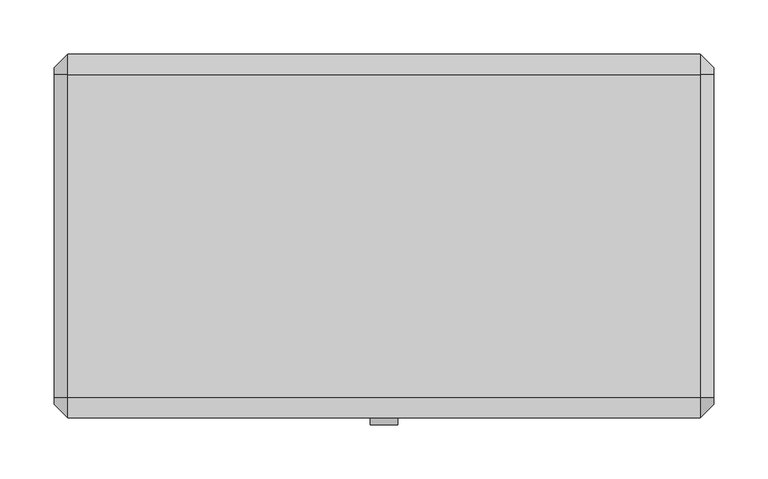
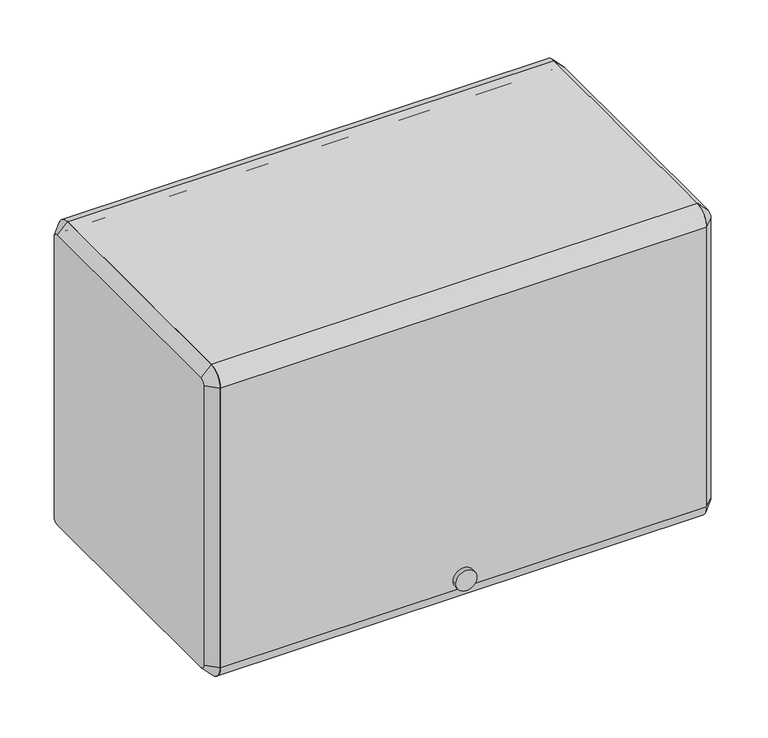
"""IFC4 building model written with IfcOpenShell, lengths in millimetres: furniture geometry."""

from ifc_helpers import new_model, si_unit, point, frame, frame_2d, origin, place, context, project, spatial, polyline, circle_curve, trimmed, segment, composite_curve, outline, extrude, source, transform, mapped, element, save
from ifc_brep_helpers import plane_surface, revolved_surface, advanced_brep


def furniture_6c0513ad(model_context):
    return source(origin(), model_context, "Body", "SolidModel", [
        extrude(outline(composite_curve([segment(polyline([(-136.525, 1993.9), (-136.525, 2006.6), (161.925, 2006.6)]), True, "CONTINUOUS"), segment(trimmed(circle_curve(frame_2d((161.925, 1987.55)), 19.05), [point((161.925, 2006.6))], [point((180.975, 1987.55))], False, "CARTESIAN"), True, "CONTINUOUS"), segment(polyline([(180.975, 1987.55), (168.275, 1987.55)]), True, "CONTINUOUS"), segment(trimmed(circle_curve(frame_2d((161.925, 1987.55)), 6.35), [point((168.275, 1987.55))], [point((161.925, 1993.9))], True, "CARTESIAN"), True, "CONTINUOUS"), segment(polyline([(161.925, 1993.9), (-136.525, 1993.9)]), True, "CONTINUOUS")], self_intersect=False)), frame((-292.1, 0.0, 0.0), z_axis=(1.0, 0.0, 0.0), x_axis=(0.0, 1.0, 0.0)), (0.0, 0.0, 1.0), 584.2),
        extrude(outline(composite_curve([segment(trimmed(circle_curve(frame_2d((-136.525, 1987.55)), 19.05), [point((-155.575, 1987.55))], [point((-136.525, 2006.6))], False, "CARTESIAN"), True, "CONTINUOUS"), segment(polyline([(-136.525, 2006.6), (-136.525, 1993.9)]), True, "CONTINUOUS"), segment(trimmed(circle_curve(frame_2d((-136.525, 1987.55)), 6.35), [point((-136.525, 1993.9))], [point((-142.875, 1987.55))], True, "CARTESIAN"), True, "CONTINUOUS"), segment(polyline([(-142.875, 1987.55), (-142.875, 1631.95)]), True, "CONTINUOUS"), segment(trimmed(circle_curve(frame_2d((-136.525, 1631.95)), 6.35), [point((-142.875, 1631.95))], [point((-136.525, 1625.6))], True, "CARTESIAN"), True, "CONTINUOUS"), segment(polyline([(-136.525, 1625.6), (-136.525, 1612.9)]), True, "CONTINUOUS"), segment(trimmed(circle_curve(frame_2d((-136.525, 1631.95)), 19.05), [point((-136.525, 1612.9))], [point((-155.575, 1631.95))], False, "CARTESIAN"), True, "CONTINUOUS"), segment(polyline([(-155.575, 1631.95), (-155.575, 1987.55)]), True, "CONTINUOUS")], self_intersect=False)), frame((-292.1, 0.0, 0.0), z_axis=(1.0, 0.0, 0.0), x_axis=(0.0, 1.0, 0.0)), (0.0, 0.0, 1.0), 584.2),
        extrude(outline(composite_curve([segment(trimmed(circle_curve(frame_2d((1644.6118906, 0.0201199)), 12.7253951), [point((1644.6118906, 12.745515))], [point((1644.6118906, -12.7052752))], False, "CARTESIAN"), True, "CONTINUOUS"), segment(trimmed(circle_curve(frame_2d((1644.6118906, 0.0201199)), 12.7253951), [point((1644.6118906, -12.7052752))], [point((1644.6118906, 12.745515))], False, "CARTESIAN"), True, "CONTINUOUS")], self_intersect=False)), frame((0.0, -161.925, 0.0), z_axis=(0.0, 1.0, 0.0), x_axis=(0.0, 0.0, 1.0)), (0.0, 0.0, 1.0), 6.35),
        extrude(outline(polyline([(-136.525, 1651.0), (161.925, 1651.0), (161.925, 1689.1), (174.625, 1689.1), (174.625, 1685.925), (165.1, 1685.925), (165.1, 1647.825), (-133.35, 1647.825), (-133.35, 1628.775), (-136.525, 1628.775), (-136.525, 1651.0)])), frame((-292.1, 0.0, 0.0), z_axis=(1.0, 0.0, 0.0), x_axis=(0.0, 1.0, 0.0)), (0.0, 0.0, 1.0), 584.2),
        advanced_brep(
        [(304.8, 161.925, 1993.9), (304.8, -136.525, 1993.9), (304.8, -142.875, 1987.55), (304.8, -142.875, 1631.95), (304.8, -136.525, 1625.6), (304.8, 161.925, 1625.6), (304.8, 168.275, 1631.95), (304.8, 168.275, 1987.55), (292.1, 161.925, 2006.6), (292.1, 180.975, 1987.55), (292.1, 180.975, 1631.95), (292.1, 161.925, 1612.9), (292.1, -136.525, 1612.9), (292.1, -155.575, 1631.95), (292.1, -155.575, 1987.55), (292.1, -136.525, 2006.6)],
        [
            (0, 1),
            (1, 2, circle_curve(frame((304.8, -136.525, 1987.55), z_axis=(1.0, 6.490807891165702e-12, -6.608047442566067e-12), x_axis=(6.60804813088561e-12, 0.0, 1.0)), 6.35)),
            (2, 3),
            (3, 4, circle_curve(frame((304.8, -136.525, 1631.95), z_axis=(1.0, 3.3759661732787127e-12, 3.367972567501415e-12), x_axis=(3.3760128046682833e-12, -1.0, 0.0)), 6.35)),
            (4, 5),
            (5, 6, circle_curve(frame((304.8, 161.925, 1631.95), z_axis=(1.0, 3.378630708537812e-12, -3.4106051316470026e-12), x_axis=(-3.4105548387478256e-12, 0.0, -1.0)), 6.35)),
            (6, 7),
            (7, 0, circle_curve(frame((304.8, 161.925, 1987.55), z_axis=(1.0, 6.4828142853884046e-12, 6.373568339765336e-12), x_axis=(-6.482754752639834e-12, 1.0, 0.0)), 6.35)),
            (8, 9, circle_curve(frame((292.1, 161.925, 1987.55), z_axis=(-1.0, -6.4828142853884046e-12, -6.373568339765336e-12), x_axis=(-6.482754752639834e-12, 1.0, 0.0)), 19.05)),
            (9, 10),
            (10, 11, circle_curve(frame((292.1, 161.925, 1631.95), z_axis=(-1.0, -3.378630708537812e-12, 3.4106051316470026e-12), x_axis=(-3.4105548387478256e-12, 0.0, -1.0)), 19.05)),
            (11, 12),
            (12, 13, circle_curve(frame((292.1, -136.525, 1631.95), z_axis=(-1.0, -3.3759661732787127e-12, -3.367972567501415e-12), x_axis=(3.3760128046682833e-12, -1.0, 0.0)), 19.05)),
            (13, 14),
            (14, 15, circle_curve(frame((292.1, -136.525, 1987.55), z_axis=(-1.0, -6.490807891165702e-12, 6.608047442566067e-12), x_axis=(6.60804813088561e-12, 0.0, 1.0)), 19.05)),
            (15, 8),
            (15, 1),
            (0, 8),
            (14, 2),
            (13, 3),
            (12, 4),
            (11, 5),
            (10, 6),
            (9, 7),
        ],
        [
            plane_surface(frame((304.8, 12.7, 1809.75), z_axis=(1.0, 0.0, 0.0), x_axis=(0.0, -1.0, 0.0))),
            plane_surface(frame((292.1, 12.7, 1809.75), z_axis=(-1.0, 0.0, 0.0), x_axis=(0.0, -1.0, 0.0))),
            plane_surface(frame((292.1, 12.7, 2006.6), z_axis=(0.7071067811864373, 0.0, 0.7071067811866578), x_axis=(0.0, -1.0, 0.0))),
            revolved_surface(polyline([(304.80000000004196, -136.525, 1993.899999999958), (292.1, -136.525, 2006.6)]), (311.15, -136.525, 1987.55), (-1.0, -6.490807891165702e-12, 6.608047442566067e-12)),
            plane_surface(frame((292.1, -155.575, 1809.75), z_axis=(0.7071067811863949, -0.7071067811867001, 0.0), x_axis=(0.0, 0.0, -1.0))),
            revolved_surface(polyline([(304.80000000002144, -142.87499999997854, 1631.95), (292.1, -155.575, 1631.95)]), (311.15, -136.525, 1631.95), (-1.0, -3.3759661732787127e-12, -3.367972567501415e-12)),
            plane_surface(frame((292.1, 12.7, 1612.9), z_axis=(0.7071067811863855, 0.0, -0.7071067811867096), x_axis=(0.0, 1.0, 0.0))),
            revolved_surface(polyline([(304.8, 161.925, 1625.6000000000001), (292.09999999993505, 161.925, 1612.899999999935)]), (311.15, 161.925, 1631.95), (-1.0, -3.378630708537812e-12, 3.4106051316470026e-12)),
            plane_surface(frame((292.1, 180.975, 1809.75), z_axis=(0.707106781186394, 0.7071067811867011, 0.0), x_axis=(0.0, 0.0, 1.0))),
            revolved_surface(polyline([(304.8, 168.27499999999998, 1987.55), (292.0999999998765, 180.9750000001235, 1987.55)]), (311.15, 161.925, 1987.55), (-1.0, -6.4828142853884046e-12, -6.373568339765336e-12)),
        ],
        [
            (0, [[1, 2, 3, 4, 5, 6, 7, 8]]),
            (1, [[9, 10, 11, 12, 13, 14, 15, 16]]),
            (2, [[-16, 17, -1, 18]]),
            (3, [[-15, 19, -2, -17]]),
            (4, [[-14, 20, -3, -19]]),
            (5, [[-13, 21, -4, -20]]),
            (6, [[-12, 22, -5, -21]]),
            (7, [[-11, 23, -6, -22]]),
            (8, [[-10, 24, -7, -23]]),
            (9, [[-9, -18, -8, -24]]),
        ],
    ),
        advanced_brep(
        [(-304.8, -136.525, 1993.9), (-304.8, 161.925, 1993.9), (-304.8, 168.275, 1987.55), (-304.8, 168.275, 1631.95), (-304.8, 161.925, 1625.6), (-304.8, -136.525, 1625.6), (-304.8, -142.875, 1631.95), (-304.8, -142.875, 1987.55), (-292.1, -136.525, 2006.6), (-292.1, -155.575, 1987.55), (-292.1, -155.575, 1631.95), (-292.1, -136.525, 1612.9), (-292.1, 161.925, 1612.9), (-292.1, 180.975, 1631.95), (-292.1, 180.975, 1987.55), (-292.1, 161.925, 2006.6)],
        [
            (0, 1),
            (1, 2, circle_curve(frame((-304.8, 161.925, 1987.55), z_axis=(-1.0, 3.365308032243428e-12, 3.474553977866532e-12), x_axis=(3.4746146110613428e-12, 0.0, 1.0)), 6.35)),
            (2, 3),
            (3, 4, circle_curve(frame((-304.8, 161.925, 1631.95), z_axis=(-1.0, 0.0, 0.0), x_axis=(0.0, 1.0, 0.0)), 6.35)),
            (4, 5),
            (5, 6, circle_curve(frame((-304.8, -136.525, 1631.95), z_axis=(-1.0, 0.0, 0.0), x_axis=(0.0, 0.0, -1.0)), 6.35)),
            (6, 7),
            (7, 0, circle_curve(frame((-304.8, -136.525, 1987.55), z_axis=(-1.0, 3.3799629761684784e-12, -3.3040237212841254e-12), x_axis=(-3.379938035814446e-12, -1.0, 0.0)), 6.35)),
            (8, 9, circle_curve(frame((-292.1, -136.525, 1987.55), z_axis=(1.0, -3.3799629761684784e-12, 3.3040237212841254e-12), x_axis=(-3.379938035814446e-12, -1.0, 0.0)), 19.05)),
            (9, 10),
            (10, 11, circle_curve(frame((-292.1, -136.525, 1631.95), z_axis=(1.0, 0.0, 0.0), x_axis=(0.0, 0.0, -1.0)), 19.05)),
            (11, 12),
            (12, 13, circle_curve(frame((-292.1, 161.925, 1631.95), z_axis=(1.0, 0.0, 0.0), x_axis=(0.0, 1.0, 0.0)), 19.05)),
            (13, 14),
            (14, 15, circle_curve(frame((-292.1, 161.925, 1987.55), z_axis=(1.0, -3.365308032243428e-12, -3.474553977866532e-12), x_axis=(3.4746146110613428e-12, 0.0, 1.0)), 19.05)),
            (15, 8),
            (15, 1),
            (0, 8),
            (14, 2),
            (13, 3),
            (12, 4),
            (11, 5),
            (10, 6),
            (9, 7),
        ],
        [
            plane_surface(frame((-304.8, 12.7, 1809.75), z_axis=(-1.0, 0.0, 0.0), x_axis=(0.0, -1.0, 0.0))),
            plane_surface(frame((-292.1, 12.7, 1809.75), z_axis=(1.0, 0.0, 0.0), x_axis=(0.0, -1.0, 0.0))),
            plane_surface(frame((-292.1, 12.7, 2006.6), z_axis=(-0.7071067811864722, 0.0, 0.707106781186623), x_axis=(0.0, 1.0, 0.0))),
            revolved_surface(polyline([(-304.8, 161.925, 1993.8999999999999), (-292.09999999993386, 161.925, 2006.600000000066)]), (-311.15, 161.925, 1987.55), (1.0, -3.365308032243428e-12, -3.474553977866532e-12)),
            plane_surface(frame((-292.1, 180.975, 1809.75), z_axis=(-0.7071067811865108, 0.7071067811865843, 0.0), x_axis=(0.0, 0.0, -1.0))),
            revolved_surface(polyline([(-304.8, 168.27499999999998, 1631.95), (-292.1, 180.975, 1631.95)]), (-311.15, 161.925, 1631.95), (1.0, 0.0, 0.0)),
            plane_surface(frame((-292.1, 12.7, 1612.9), z_axis=(-0.7071067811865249, 0.0, -0.7071067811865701), x_axis=(0.0, -1.0, 0.0))),
            revolved_surface(polyline([(-304.8, -136.525, 1625.6000000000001), (-292.1, -136.525, 1612.9)]), (-311.15, -136.525, 1631.95), (1.0, 0.0, 0.0)),
            plane_surface(frame((-292.1, -155.575, 1809.75), z_axis=(-0.7071067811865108, -0.7071067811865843, 0.0), x_axis=(0.0, 0.0, 1.0))),
            revolved_surface(polyline([(-304.8000000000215, -142.8749999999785, 1987.55), (-292.1, -155.575, 1987.55)]), (-311.15, -136.525, 1987.55), (1.0, -3.3799629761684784e-12, 3.3040237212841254e-12)),
        ],
        [
            (0, [[1, 2, 3, 4, 5, 6, 7, 8]]),
            (1, [[9, 10, 11, 12, 13, 14, 15, 16]]),
            (2, [[-16, 17, -1, 18]]),
            (3, [[-15, 19, -2, -17]]),
            (4, [[-14, 20, -3, -19]]),
            (5, [[-13, 21, -4, -20]]),
            (6, [[-12, 22, -5, -21]]),
            (7, [[-11, 23, -6, -22]]),
            (8, [[-10, 24, -7, -23]]),
            (9, [[-9, -18, -8, -24]]),
        ],
    ),
    ])


if __name__ == "__main__":
    model = new_model("IFC4")
    model_context = context("Model", 3, world=origin())
    ifc_project = project(units=[si_unit("LENGTHUNIT", "METRE", prefix="MILLI")], contexts=[model_context])
    site = spatial("IfcSite", under=ifc_project)
    building = spatial("IfcBuilding", under=site)
    placement = place(None, origin())
    furniture_shape = furniture_6c0513ad(model_context)
    element("IfcFurniture", 1, ObjectType="HermanMiller_ActionOffice_A3352_B-StyleFlipperDoorUnit : 15 1/2\"H x 13\"D x 24\"W", at=placement, inside=building, context=model_context, shape_type="MappedRepresentation", body=[
        mapped(furniture_shape, transform((0.0, 0.0, 0.0), x_axis=(1.0, 0.0, 0.0), y_axis=(0.0, 1.0, 0.0), z_axis=(0.0, 0.0, 1.0))),
    ])
    save(model, "model.ifc")
